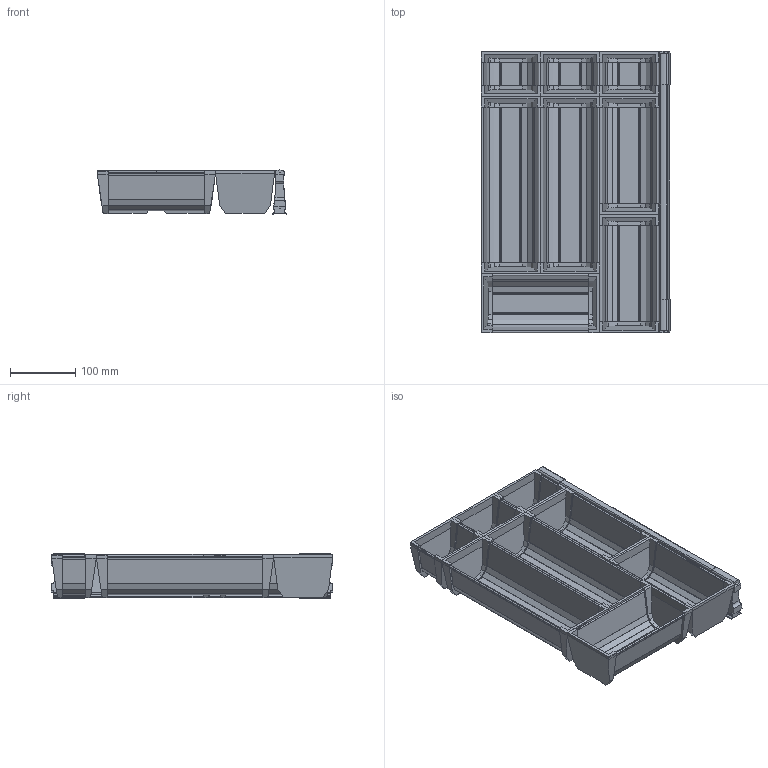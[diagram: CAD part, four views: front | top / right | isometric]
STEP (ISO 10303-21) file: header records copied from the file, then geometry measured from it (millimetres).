
FILE_DESCRIPTION (( 'STEP AP214' ), '1' );
FILE_NAME ('Inoxsys_B3_NL-450.STEP', '2010-08-17T11:53:57', ( 'grass' ), ( '' ), 'SwSTEP 2.0', 'SolidWorks 2010', '' );
FILE_SCHEMA (( 'AUTOMOTIVE_DESIGN' ));
Length unit declared in the file: millimetre
Products named in the file (1): Inoxsys_B3_NL-450
Bounding box: 290.01 x 431 x 67.5 mm (x, y, z)
Volume: 840356 mm3; surface area: 695283.2 mm2
Topology: 9 solids, 9 shells, 1021 faces, 2961 edges, 1974 vertices
Faces by surface type: plane 697, cylinder 324
Entity records: 44992 total; most frequent: CARTESIAN_POINT 6287, ORIENTED_EDGE 5922, DIRECTION 5553, EDGE_CURVE 2961, VECTOR 2265, LINE 2265, VERTEX_POINT 1974, AXIS2_PLACEMENT_3D 1644
